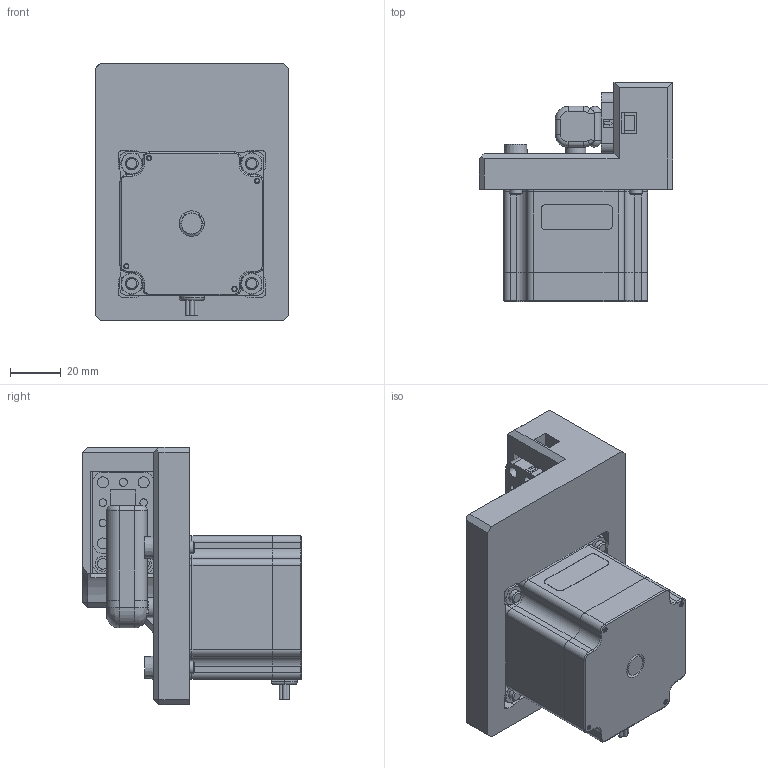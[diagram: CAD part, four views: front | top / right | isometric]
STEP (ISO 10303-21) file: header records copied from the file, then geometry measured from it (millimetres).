
FILE_DESCRIPTION(/* description */ (''),/* implementation_level */ '2;1');
FILE_NAME(/* name */ 'Assieme2.stp',/* time_stamp */ '2025-01-02T17:38:41+01:00',/* author */ ('R5800u'),/* organization */ (''),/* preprocessor_version */ 'ST-DEVELOPER v20',/* originating_system */ 'Autodesk Inventor 2025',/* authorisation */ '');
FILE_SCHEMA (('AUTOMOTIVE_DESIGN { 1 0 10303 214 3 1 1 }'));
Products named in the file (18): Assieme2; nema23_57byg201; Up; Bottom; Middle; M2x50-Screw; Rubber; RedWire; GreenWire; BlueWire; YellowWire; albero_1; etichetta; M5 Mini Scales Unit; perno asse; blocco_base; Vite a testa cilindrica incassata esalobulare ISO 14580 - M5x16-4.8; AS 1112 - M5  Tipo 5
Assembly tree (26 placements, depth 3):
  Assieme2
    nema23_57byg201
      Up
      Bottom
      Middle
      M2x50-Screw  x4
      Rubber
      RedWire
      GreenWire
      BlueWire
      YellowWire
      albero_1
      etichetta
    M5 Mini Scales Unit
    perno asse
    blocco_base
    Vite a testa cilindrica incassata esalobulare ISO 14580 - M5x16-4.8  x4
    AS 1112 - M5  Tipo 5  x4
Bounding box: 76.2 x 86 x 101.2 mm (x, y, z)
Volume: 218863.9 mm3; surface area: 76071.8 mm2
Topology: 25 solids, 25 shells, 1367 faces, 3478 edges, 2191 vertices
Faces by surface type: plane 487, bspline 377, cylinder 376, cone 94, torus 27, sphere 6
Full cylindrical faces by diameter (mm): 1.6 x4, 1.619 x112, 2 x4, 2.2 x4, 3 x4, 3.2 x2, 4 x4, 4.134 x4, 4.3 x8, 4.6 x4, 5 x8, 5.266 x1, 5.3 x4, 5.634 x1, 6 x6, 7.546 x1, 8 x5, 10 x2, 38.1 x1, 40 x1, 49.577 x1
Entity records: 91182 total; most frequent: CARTESIAN_POINT 65724, ORIENTED_EDGE 5710, DIRECTION 3987, EDGE_CURVE 2855, VERTEX_POINT 1794, LINE 1505, VECTOR 1505, AXIS2_PLACEMENT_3D 1241
